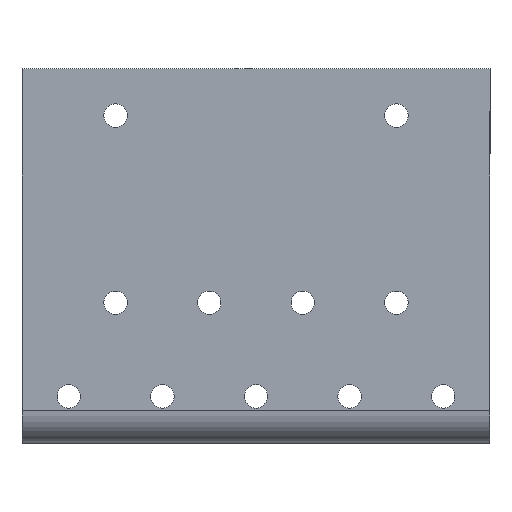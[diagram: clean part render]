
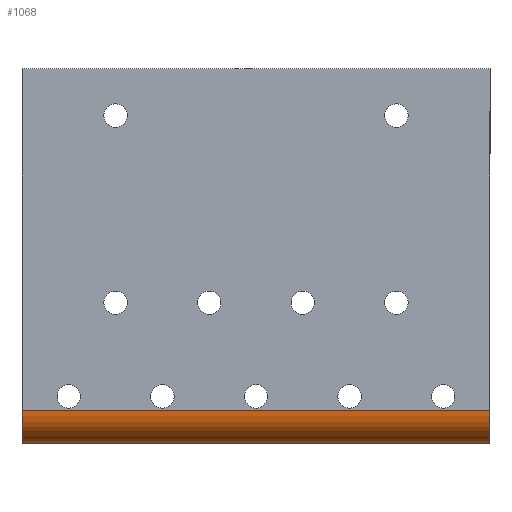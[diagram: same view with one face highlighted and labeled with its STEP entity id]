
A CAD part, front view. The second image highlights one B-rep face of the part: STEP entity #1068.
In plain terms, the highlighted cylindrical face has radius 7 mm (diameter 14 mm), a partial arc.
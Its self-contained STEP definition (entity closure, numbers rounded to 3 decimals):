
#73 = CARTESIAN_POINT ( 'NONE',  ( 50., -73., -33. ) ) ;
#173 = CARTESIAN_POINT ( 'NONE',  ( 50., -73., -40. ) ) ;
#224 = DIRECTION ( 'NONE',  ( 1., 0., 0. ) ) ;
#228 = EDGE_CURVE ( 'NONE', #1864, #1693, #2053, .T. ) ;
#234 = DIRECTION ( 'NONE',  ( 1., 0., 0. ) ) ;
#262 = LINE ( 'NONE', #906, #1769 ) ;
#265 = CARTESIAN_POINT ( 'NONE',  ( -50., -80., -33. ) ) ;
#330 = LINE ( 'NONE', #1617, #433 ) ;
#433 = VECTOR ( 'NONE', #503, 1000. ) ;
#467 = ORIENTED_EDGE ( 'NONE', *, *, #678, .F. ) ;
#503 = DIRECTION ( 'NONE',  ( -1., 0., 0. ) ) ;
#505 = AXIS2_PLACEMENT_3D ( 'NONE', #73, #224, #725 ) ;
#514 = ORIENTED_EDGE ( 'NONE', *, *, #625, .T. ) ;
#614 = AXIS2_PLACEMENT_3D ( 'NONE', #1853, #733, #1847 ) ;
#625 = EDGE_CURVE ( 'NONE', #774, #1563, #1595, .T. ) ;
#678 = EDGE_CURVE ( 'NONE', #1693, #1563, #262, .T. ) ;
#725 = DIRECTION ( 'NONE',  ( 0., -1., 0. ) ) ;
#733 = DIRECTION ( 'NONE',  ( 1., 0., 0. ) ) ;
#744 = EDGE_LOOP ( 'NONE', ( #1499, #514, #467, #1251 ) ) ;
#774 = VERTEX_POINT ( 'NONE', #265 ) ;
#788 = CARTESIAN_POINT ( 'NONE',  ( 50., -80., -33. ) ) ;
#906 = CARTESIAN_POINT ( 'NONE',  ( 50., -73., -40. ) ) ;
#995 = CYLINDRICAL_SURFACE ( 'NONE', #2073, 7. ) ;
#1068 = ADVANCED_FACE ( 'NONE', ( #1338 ), #995, .T. ) ;
#1251 = ORIENTED_EDGE ( 'NONE', *, *, #228, .F. ) ;
#1338 = FACE_OUTER_BOUND ( 'NONE', #744, .T. ) ;
#1499 = ORIENTED_EDGE ( 'NONE', *, *, #1522, .T. ) ;
#1504 = DIRECTION ( 'NONE',  ( 0., -1., 0. ) ) ;
#1522 = EDGE_CURVE ( 'NONE', #1864, #774, #330, .T. ) ;
#1563 = VERTEX_POINT ( 'NONE', #2074 ) ;
#1595 = CIRCLE ( 'NONE', #614, 7. ) ;
#1617 = CARTESIAN_POINT ( 'NONE',  ( 0., -80., -33. ) ) ;
#1674 = CARTESIAN_POINT ( 'NONE',  ( 0., -73., -33. ) ) ;
#1693 = VERTEX_POINT ( 'NONE', #173 ) ;
#1769 = VECTOR ( 'NONE', #1837, 1000. ) ;
#1837 = DIRECTION ( 'NONE',  ( -1., 0., 0. ) ) ;
#1847 = DIRECTION ( 'NONE',  ( 0., -1., 0. ) ) ;
#1853 = CARTESIAN_POINT ( 'NONE',  ( -50., -73., -33. ) ) ;
#1864 = VERTEX_POINT ( 'NONE', #788 ) ;
#2053 = CIRCLE ( 'NONE', #505, 7. ) ;
#2073 = AXIS2_PLACEMENT_3D ( 'NONE', #1674, #234, #1504 ) ;
#2074 = CARTESIAN_POINT ( 'NONE',  ( -50., -73., -40. ) ) ;
